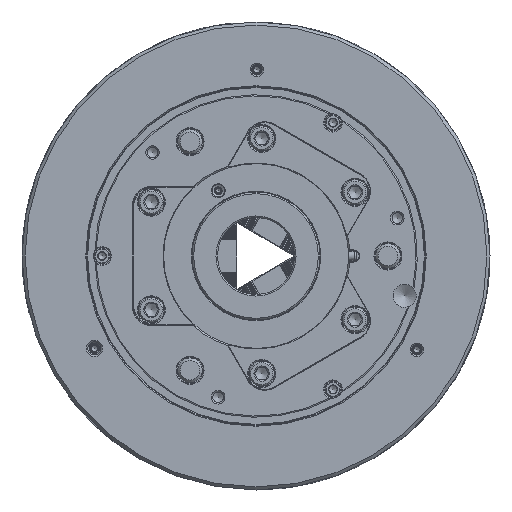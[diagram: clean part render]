
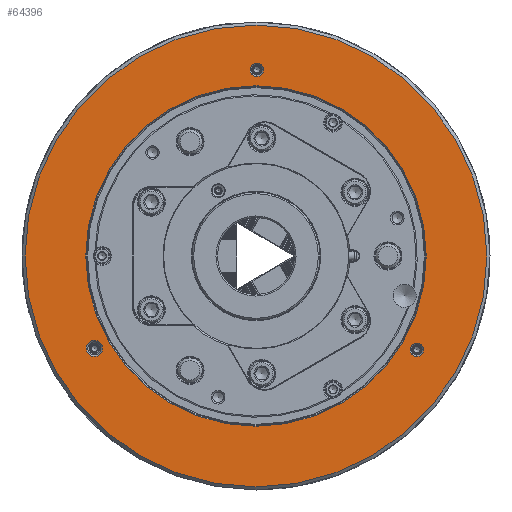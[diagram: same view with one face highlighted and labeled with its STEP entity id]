
A CAD part, left-side view. The second image highlights one B-rep face of the part: STEP entity #64396.
In plain terms, the highlighted planar face has unit normal (-1, 0, 0).
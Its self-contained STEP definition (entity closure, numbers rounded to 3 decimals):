
#6667 = CARTESIAN_POINT ( 'NONE',  ( -138., 105., -60. ) ) ;
#6678 = AXIS2_PLACEMENT_3D ( 'NONE', #36120, #11804, #50488 ) ;
#8670 = ORIENTED_EDGE ( 'NONE', *, *, #72729, .F. ) ;
#8912 = FACE_BOUND ( 'NONE', #10645, .T. ) ;
#9082 = EDGE_CURVE ( 'NONE', #62457, #62457, #74270, .T. ) ;
#9127 = EDGE_CURVE ( 'NONE', #69439, #69439, #59951, .T. ) ;
#10341 = CARTESIAN_POINT ( 'NONE',  ( -138., -104.462, -60.933 ) ) ;
#10645 = EDGE_LOOP ( 'NONE', ( #48786 ) ) ;
#10840 = DIRECTION ( 'NONE',  ( 0., 0., 1. ) ) ;
#11804 = DIRECTION ( 'NONE',  ( 1., 0., 0. ) ) ;
#13149 = CARTESIAN_POINT ( 'NONE',  ( -138., 0., 0. ) ) ;
#16364 = FACE_OUTER_BOUND ( 'NONE', #80437, .T. ) ;
#17812 = FACE_BOUND ( 'NONE', #36683, .T. ) ;
#18570 = EDGE_CURVE ( 'NONE', #71404, #71404, #92964, .T. ) ;
#20693 = VERTEX_POINT ( 'NONE', #28158 ) ;
#21343 = CIRCLE ( 'NONE', #24504, 4.3 ) ;
#22027 = AXIS2_PLACEMENT_3D ( 'NONE', #6667, #36944, #30008 ) ;
#24504 = AXIS2_PLACEMENT_3D ( 'NONE', #10341, #79775, #10840 ) ;
#24556 = EDGE_LOOP ( 'NONE', ( #63161 ) ) ;
#25285 = PLANE ( 'NONE',  #47372 ) ;
#28158 = CARTESIAN_POINT ( 'NONE',  ( -138., 0., -150. ) ) ;
#30008 = DIRECTION ( 'NONE',  ( 0., 0., -1. ) ) ;
#31790 = CARTESIAN_POINT ( 'NONE',  ( -138., 0., -110.6 ) ) ;
#32699 = FACE_BOUND ( 'NONE', #24556, .T. ) ;
#36120 = CARTESIAN_POINT ( 'NONE',  ( -138., 0., 0. ) ) ;
#36683 = EDGE_LOOP ( 'NONE', ( #8670 ) ) ;
#36944 = DIRECTION ( 'NONE',  ( 1., 0., 0. ) ) ;
#37039 = CARTESIAN_POINT ( 'NONE',  ( -138., -104.462, -56.633 ) ) ;
#43391 = DIRECTION ( 'NONE',  ( 1., 0., 0. ) ) ;
#47372 = AXIS2_PLACEMENT_3D ( 'NONE', #93210, #55474, #61942 ) ;
#48786 = ORIENTED_EDGE ( 'NONE', *, *, #9127, .T. ) ;
#50201 = AXIS2_PLACEMENT_3D ( 'NONE', #54778, #70651, #62221 ) ;
#50488 = DIRECTION ( 'NONE',  ( 0., 0., -1. ) ) ;
#54137 = CIRCLE ( 'NONE', #6678, 150. ) ;
#54778 = CARTESIAN_POINT ( 'NONE',  ( -138., -0.538, 120.933 ) ) ;
#55474 = DIRECTION ( 'NONE',  ( 1., 0., 0. ) ) ;
#59951 = CIRCLE ( 'NONE', #67888, 110.6 ) ;
#61942 = DIRECTION ( 'NONE',  ( 0., 0., -1. ) ) ;
#62221 = DIRECTION ( 'NONE',  ( 0., 0., 1. ) ) ;
#62457 = VERTEX_POINT ( 'NONE', #78338 ) ;
#63161 = ORIENTED_EDGE ( 'NONE', *, *, #9082, .T. ) ;
#64396 = ADVANCED_FACE ( 'NONE', ( #69882, #17812, #32699, #16364, #8912 ), #25285, .F. ) ;
#67888 = AXIS2_PLACEMENT_3D ( 'NONE', #13149, #43391, #73643 ) ;
#68044 = EDGE_CURVE ( 'NONE', #20693, #20693, #54137, .T. ) ;
#69439 = VERTEX_POINT ( 'NONE', #31790 ) ;
#69882 = FACE_BOUND ( 'NONE', #87757, .T. ) ;
#70651 = DIRECTION ( 'NONE',  ( -1., 0., 0. ) ) ;
#71404 = VERTEX_POINT ( 'NONE', #88257 ) ;
#72729 = EDGE_CURVE ( 'NONE', #82161, #82161, #21343, .T. ) ;
#73643 = DIRECTION ( 'NONE',  ( 0., 0., -1. ) ) ;
#74270 = CIRCLE ( 'NONE', #22027, 5.3 ) ;
#75102 = ORIENTED_EDGE ( 'NONE', *, *, #68044, .F. ) ;
#78338 = CARTESIAN_POINT ( 'NONE',  ( -138., 105., -65.3 ) ) ;
#79775 = DIRECTION ( 'NONE',  ( -1., 0., 0. ) ) ;
#80437 = EDGE_LOOP ( 'NONE', ( #75102 ) ) ;
#82161 = VERTEX_POINT ( 'NONE', #37039 ) ;
#87757 = EDGE_LOOP ( 'NONE', ( #87840 ) ) ;
#87840 = ORIENTED_EDGE ( 'NONE', *, *, #18570, .F. ) ;
#88257 = CARTESIAN_POINT ( 'NONE',  ( -138., -0.538, 125.233 ) ) ;
#92964 = CIRCLE ( 'NONE', #50201, 4.3 ) ;
#93210 = CARTESIAN_POINT ( 'NONE',  ( -138., -150., 0. ) ) ;
